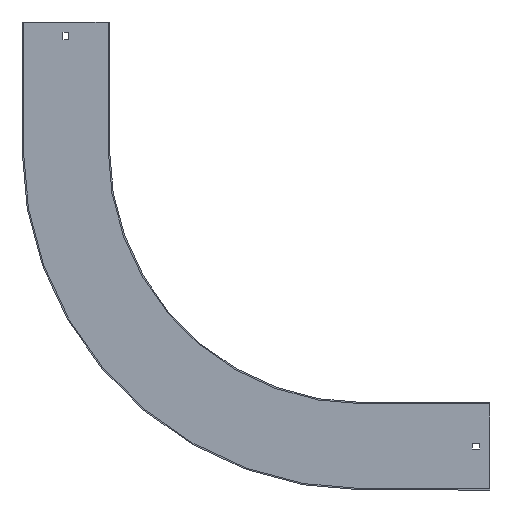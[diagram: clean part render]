
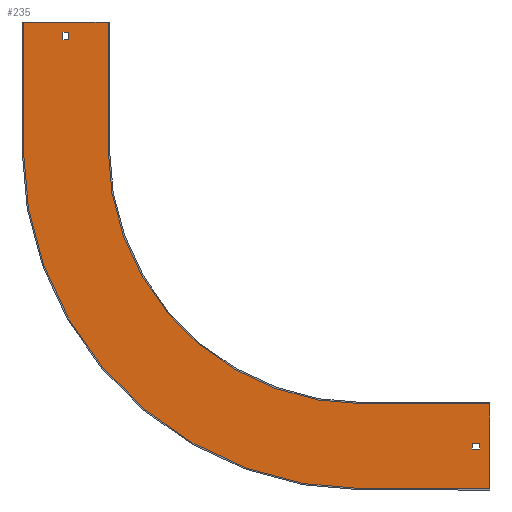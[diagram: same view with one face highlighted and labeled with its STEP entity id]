
A CAD part, front view. The second image highlights one B-rep face of the part: STEP entity #235.
In plain terms, the highlighted planar face has unit normal (0, -1, 0).
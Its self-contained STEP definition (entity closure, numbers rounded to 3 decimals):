
#3 = CARTESIAN_POINT ( 'NONE',  ( -353.25, -1.5, 138. ) ) ;
#5 = LINE ( 'NONE', #214, #516 ) ;
#9 = EDGE_CURVE ( 'NONE', #318, #613, #457, .T. ) ;
#16 = DIRECTION ( 'NONE',  ( -1., 0., 0. ) ) ;
#24 = CARTESIAN_POINT ( 'NONE',  ( -401.5, -1.5, 150. ) ) ;
#35 = VERTEX_POINT ( 'NONE', #328 ) ;
#40 = CARTESIAN_POINT ( 'NONE',  ( 0., -1.5, 0. ) ) ;
#43 = EDGE_LOOP ( 'NONE', ( #452, #67, #806, #174 ) ) ;
#57 = ORIENTED_EDGE ( 'NONE', *, *, #736, .F. ) ;
#64 = VECTOR ( 'NONE', #387, 1000. ) ;
#67 = ORIENTED_EDGE ( 'NONE', *, *, #424, .T. ) ;
#68 = CARTESIAN_POINT ( 'NONE',  ( 129., -1.5, -353.25 ) ) ;
#75 = ORIENTED_EDGE ( 'NONE', *, *, #734, .F. ) ;
#76 = DIRECTION ( 'NONE',  ( 1., 0., 0. ) ) ;
#81 = ORIENTED_EDGE ( 'NONE', *, *, #787, .F. ) ;
#90 = VECTOR ( 'NONE', #670, 1000. ) ;
#91 = AXIS2_PLACEMENT_3D ( 'NONE', #40, #848, #792 ) ;
#105 = VECTOR ( 'NONE', #76, 1000. ) ;
#108 = VERTEX_POINT ( 'NONE', #497 ) ;
#121 = DIRECTION ( 'NONE',  ( 0., 0., -1. ) ) ;
#125 = EDGE_CURVE ( 'NONE', #543, #358, #407, .T. ) ;
#126 = LINE ( 'NONE', #789, #665 ) ;
#130 = DIRECTION ( 'NONE',  ( 0., 0., -1. ) ) ;
#132 = CARTESIAN_POINT ( 'NONE',  ( 138., -1.5, -346.75 ) ) ;
#143 = CARTESIAN_POINT ( 'NONE',  ( -400., -1.5, 150. ) ) ;
#147 = VERTEX_POINT ( 'NONE', #166 ) ;
#158 = CARTESIAN_POINT ( 'NONE',  ( 0., -1.5, -346.75 ) ) ;
#162 = VECTOR ( 'NONE', #696, 1000. ) ;
#164 = VECTOR ( 'NONE', #386, 1000. ) ;
#166 = CARTESIAN_POINT ( 'NONE',  ( -346.75, -1.5, 129. ) ) ;
#172 = ORIENTED_EDGE ( 'NONE', *, *, #333, .F. ) ;
#174 = ORIENTED_EDGE ( 'NONE', *, *, #196, .T. ) ;
#180 = ORIENTED_EDGE ( 'NONE', *, *, #685, .F. ) ;
#181 = CIRCLE ( 'NONE', #91, 300. ) ;
#189 = VERTEX_POINT ( 'NONE', #861 ) ;
#190 = EDGE_CURVE ( 'NONE', #312, #543, #252, .T. ) ;
#196 = EDGE_CURVE ( 'NONE', #35, #318, #126, .T. ) ;
#200 = EDGE_LOOP ( 'NONE', ( #302, #81, #538, #761, #291, #75, #801, #172 ) ) ;
#214 = CARTESIAN_POINT ( 'NONE',  ( 0., -1.5, 129. ) ) ;
#216 = DIRECTION ( 'NONE',  ( 1., 0., 0. ) ) ;
#217 = EDGE_LOOP ( 'NONE', ( #223, #287, #57, #180 ) ) ;
#223 = ORIENTED_EDGE ( 'NONE', *, *, #419, .F. ) ;
#225 = DIRECTION ( 'NONE',  ( 0., 0., -1. ) ) ;
#235 = ADVANCED_FACE ( 'NONE', ( #331, #740, #339 ), #266, .T. ) ;
#252 = LINE ( 'NONE', #633, #353 ) ;
#266 = PLANE ( 'NONE',  #693 ) ;
#283 = EDGE_CURVE ( 'NONE', #358, #357, #595, .T. ) ;
#287 = ORIENTED_EDGE ( 'NONE', *, *, #591, .F. ) ;
#291 = ORIENTED_EDGE ( 'NONE', *, *, #190, .F. ) ;
#299 = VECTOR ( 'NONE', #216, 1000. ) ;
#302 = ORIENTED_EDGE ( 'NONE', *, *, #632, .F. ) ;
#312 = VERTEX_POINT ( 'NONE', #659 ) ;
#318 = VERTEX_POINT ( 'NONE', #3 ) ;
#328 = CARTESIAN_POINT ( 'NONE',  ( -353.25, -1.5, 129. ) ) ;
#331 = FACE_BOUND ( 'NONE', #217, .T. ) ;
#333 = EDGE_CURVE ( 'NONE', #189, #108, #455, .T. ) ;
#334 = LINE ( 'NONE', #838, #710 ) ;
#339 = FACE_BOUND ( 'NONE', #43, .T. ) ;
#353 = VECTOR ( 'NONE', #121, 1000. ) ;
#357 = VERTEX_POINT ( 'NONE', #448 ) ;
#358 = VERTEX_POINT ( 'NONE', #798 ) ;
#376 = LINE ( 'NONE', #649, #164 ) ;
#379 = DIRECTION ( 'NONE',  ( 0., -1., 0. ) ) ;
#382 = CARTESIAN_POINT ( 'NONE',  ( 129., -1.5, -346.75 ) ) ;
#386 = DIRECTION ( 'NONE',  ( 1., 0., 0. ) ) ;
#387 = DIRECTION ( 'NONE',  ( 0., 0., 1. ) ) ;
#389 = CARTESIAN_POINT ( 'NONE',  ( 138., -1.5, 0. ) ) ;
#390 = CARTESIAN_POINT ( 'NONE',  ( 0., -1.5, -353.25 ) ) ;
#394 = CARTESIAN_POINT ( 'NONE',  ( 0., -1.5, 0. ) ) ;
#402 = CARTESIAN_POINT ( 'NONE',  ( 150., -1.5, -400. ) ) ;
#407 = LINE ( 'NONE', #402, #162 ) ;
#419 = EDGE_CURVE ( 'NONE', #726, #727, #747, .T. ) ;
#423 = VECTOR ( 'NONE', #666, 1000. ) ;
#424 = EDGE_CURVE ( 'NONE', #613, #147, #334, .T. ) ;
#442 = EDGE_CURVE ( 'NONE', #108, #813, #181, .T. ) ;
#447 = DIRECTION ( 'NONE',  ( 0., 0., 1. ) ) ;
#448 = CARTESIAN_POINT ( 'NONE',  ( -400., -1.5, 0. ) ) ;
#452 = ORIENTED_EDGE ( 'NONE', *, *, #9, .T. ) ;
#455 = LINE ( 'NONE', #576, #473 ) ;
#457 = LINE ( 'NONE', #471, #90 ) ;
#460 = AXIS2_PLACEMENT_3D ( 'NONE', #394, #731, #669 ) ;
#471 = CARTESIAN_POINT ( 'NONE',  ( 0., -1.5, 138. ) ) ;
#473 = VECTOR ( 'NONE', #130, 1000. ) ;
#497 = CARTESIAN_POINT ( 'NONE',  ( -300., -1.5, 0. ) ) ;
#516 = VECTOR ( 'NONE', #16, 1000. ) ;
#530 = CARTESIAN_POINT ( 'NONE',  ( -346.75, -1.5, 138. ) ) ;
#538 = ORIENTED_EDGE ( 'NONE', *, *, #283, .F. ) ;
#542 = LINE ( 'NONE', #389, #853 ) ;
#543 = VERTEX_POINT ( 'NONE', #581 ) ;
#557 = VERTEX_POINT ( 'NONE', #68 ) ;
#576 = CARTESIAN_POINT ( 'NONE',  ( -300., -1.5, 150. ) ) ;
#581 = CARTESIAN_POINT ( 'NONE',  ( 150., -1.5, -400. ) ) ;
#591 = EDGE_CURVE ( 'NONE', #698, #726, #542, .T. ) ;
#595 = CIRCLE ( 'NONE', #460, 400. ) ;
#613 = VERTEX_POINT ( 'NONE', #530 ) ;
#632 = EDGE_CURVE ( 'NONE', #733, #189, #687, .T. ) ;
#633 = CARTESIAN_POINT ( 'NONE',  ( 150., -1.5, -298.5 ) ) ;
#636 = CARTESIAN_POINT ( 'NONE',  ( 129., -1.5, 0. ) ) ;
#646 = LINE ( 'NONE', #723, #64 ) ;
#649 = CARTESIAN_POINT ( 'NONE',  ( 0., -1.5, -300. ) ) ;
#659 = CARTESIAN_POINT ( 'NONE',  ( 150., -1.5, -300. ) ) ;
#661 = LINE ( 'NONE', #390, #105 ) ;
#663 = CARTESIAN_POINT ( 'NONE',  ( 0., -1.5, -300. ) ) ;
#665 = VECTOR ( 'NONE', #777, 1000. ) ;
#666 = DIRECTION ( 'NONE',  ( -1., 0., 0. ) ) ;
#669 = DIRECTION ( 'NONE',  ( 0., 0., -1. ) ) ;
#670 = DIRECTION ( 'NONE',  ( 1., 0., 0. ) ) ;
#685 = EDGE_CURVE ( 'NONE', #727, #557, #695, .T. ) ;
#687 = LINE ( 'NONE', #24, #299 ) ;
#690 = CARTESIAN_POINT ( 'NONE',  ( 138., -1.5, -353.25 ) ) ;
#693 = AXIS2_PLACEMENT_3D ( 'NONE', #800, #379, #804 ) ;
#695 = LINE ( 'NONE', #636, #834 ) ;
#696 = DIRECTION ( 'NONE',  ( -1., 0., 0. ) ) ;
#698 = VERTEX_POINT ( 'NONE', #690 ) ;
#710 = VECTOR ( 'NONE', #225, 1000. ) ;
#715 = EDGE_CURVE ( 'NONE', #147, #35, #5, .T. ) ;
#723 = CARTESIAN_POINT ( 'NONE',  ( -400., -1.5, 0. ) ) ;
#726 = VERTEX_POINT ( 'NONE', #132 ) ;
#727 = VERTEX_POINT ( 'NONE', #382 ) ;
#731 = DIRECTION ( 'NONE',  ( 0., 1., 0. ) ) ;
#733 = VERTEX_POINT ( 'NONE', #143 ) ;
#734 = EDGE_CURVE ( 'NONE', #813, #312, #376, .T. ) ;
#736 = EDGE_CURVE ( 'NONE', #557, #698, #661, .T. ) ;
#740 = FACE_OUTER_BOUND ( 'NONE', #200, .T. ) ;
#747 = LINE ( 'NONE', #158, #423 ) ;
#761 = ORIENTED_EDGE ( 'NONE', *, *, #125, .F. ) ;
#777 = DIRECTION ( 'NONE',  ( 0., 0., 1. ) ) ;
#784 = DIRECTION ( 'NONE',  ( 0., 0., -1. ) ) ;
#787 = EDGE_CURVE ( 'NONE', #357, #733, #646, .T. ) ;
#789 = CARTESIAN_POINT ( 'NONE',  ( -353.25, -1.5, 0. ) ) ;
#792 = DIRECTION ( 'NONE',  ( 0., 0., -1. ) ) ;
#798 = CARTESIAN_POINT ( 'NONE',  ( 0., -1.5, -400. ) ) ;
#800 = CARTESIAN_POINT ( 'NONE',  ( 0., -1.5, 0. ) ) ;
#801 = ORIENTED_EDGE ( 'NONE', *, *, #442, .F. ) ;
#804 = DIRECTION ( 'NONE',  ( 0., 0., -1. ) ) ;
#806 = ORIENTED_EDGE ( 'NONE', *, *, #715, .T. ) ;
#813 = VERTEX_POINT ( 'NONE', #663 ) ;
#834 = VECTOR ( 'NONE', #784, 1000. ) ;
#838 = CARTESIAN_POINT ( 'NONE',  ( -346.75, -1.5, 0. ) ) ;
#848 = DIRECTION ( 'NONE',  ( 0., -1., 0. ) ) ;
#853 = VECTOR ( 'NONE', #447, 1000. ) ;
#861 = CARTESIAN_POINT ( 'NONE',  ( -300., -1.5, 150. ) ) ;
